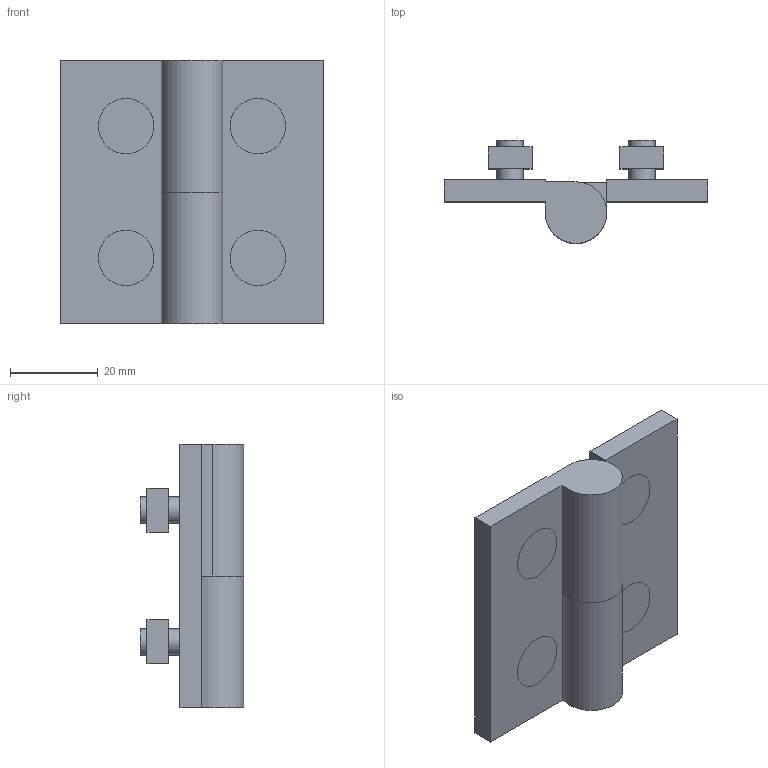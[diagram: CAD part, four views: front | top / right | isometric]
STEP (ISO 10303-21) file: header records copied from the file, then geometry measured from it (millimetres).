
FILE_DESCRIPTION((''),'2;1');
FILE_NAME('C:\Documents and Settings\古川典政\My Documents\Inventor\HP用\MasterData\ACCESSORY\M6\AHS-6060-6-R.stp','2008-08-05T14:26:06',(''),(''),'Autodesk Inventor 2008','Autodesk Inventor 2008','');
FILE_SCHEMA(('CONFIG_CONTROL_DESIGN'));
Length unit declared in the file: millimetre
Products named in the file (11): AHS-6060-6-R; AHS-6060-6-R1; AHS-6060-6-R2; AHS-6060-6-R3; AHS-6060-6-R4; AHS-6060-6-R5; AHS-6060-6-R6; AHS-6060-6-R7; AHS-6060-6-R8; AHS-6060-6-R9; AHS-6060-6-R10
Assembly tree (10 placements, depth 2):
  AHS-6060-6-R
    AHS-6060-6-R1
    AHS-6060-6-R2
    AHS-6060-6-R3
    AHS-6060-6-R4
    AHS-6060-6-R5
    AHS-6060-6-R6
    AHS-6060-6-R7
    AHS-6060-6-R8
    AHS-6060-6-R9
    AHS-6060-6-R10
Bounding box: 60 x 23.5 x 60 mm (x, y, z)
Volume: 26075.7 mm3; surface area: 13873.8 mm2
Topology: 10 solids, 10 shells, 72 faces, 154 edges, 102 vertices
Faces by surface type: plane 50, cylinder 8, bspline 8, cone 6
Full cylindrical faces by diameter (mm): 6 x4, 6.6 x2
Entity records: 2206 total; most frequent: CARTESIAN_POINT 449, DIRECTION 332, ORIENTED_EDGE 252, EDGE_CURVE 126, AXIS2_PLACEMENT_3D 121, EDGE_LOOP 108, VERTEX_POINT 94, VECTOR 90
